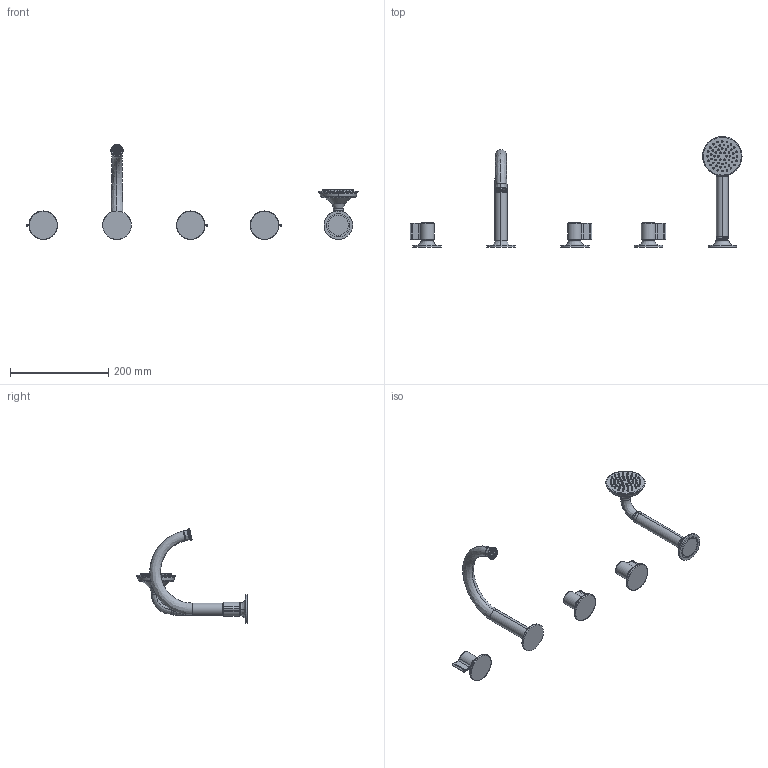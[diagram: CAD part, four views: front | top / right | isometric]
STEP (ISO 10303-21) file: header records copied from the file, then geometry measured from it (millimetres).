
FILE_DESCRIPTION(('STEP AP214'),'2;1');
FILE_NAME('DIS_3D_J565.stp','2025-05-07T15:15:07',(''),(''),'2015.2.119','THINKDESIGN','');
FILE_SCHEMA(('AUTOMOTIVE_DESIGN'));
Length unit declared in the file: millimetre
Products named in the file (1): top
Bounding box: 675 x 225.25 x 193.09 mm (x, y, z)
Volume: 462333.3 mm3; surface area: 108056.1 mm2
Topology: 8 solids, 8 shells, 1210 faces, 4201 edges, 3148 vertices
Faces by surface type: bspline 732, cylinder 240, plane 238
Entity records: 97894 total; most frequent: CARTESIAN_POINT 52157, ORIENTED_EDGE 8348, DIRECTION 6696, EDGE_CURVE 4174, VERTEX_POINT 3138, AXIS2_PLACEMENT_3D 2950, CIRCLE 2471, EDGE_LOOP 1396
